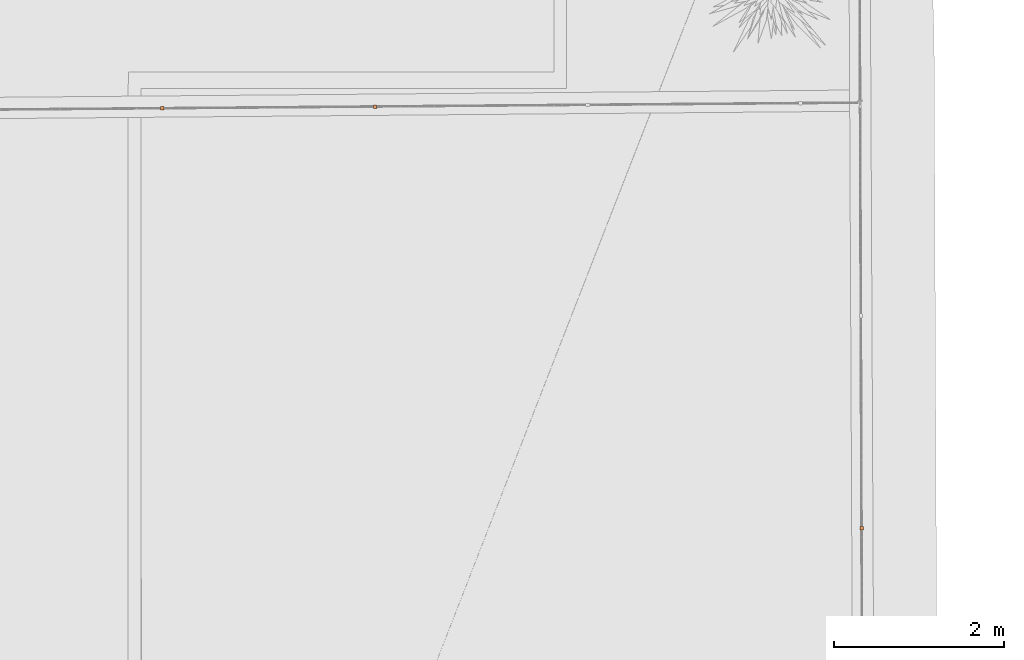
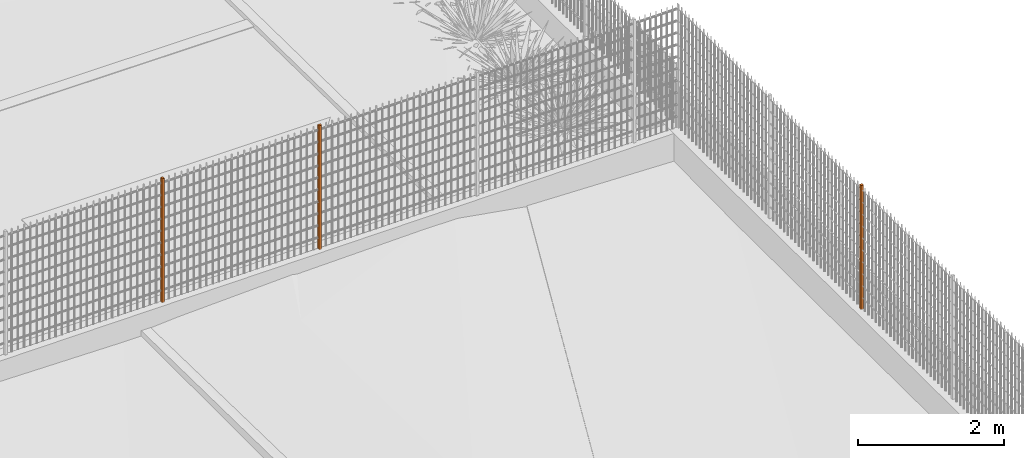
# One storey, part 15 of 1809: 3 proxies, 1 element without a shape of its own.
"""IFC2X3 building model written with IfcOpenShell, lengths in millimetres."""

from ifc_helpers import new_model, entity, si_unit, converted_unit, derived_unit, money_unit, direction, frame, origin_with_axes, place, context, subcontext, project, spatial, faceted_brep, source, transform, mapped, material, type_object, element, aggregate, save


model = new_model("IFC2X3")

# Units and contexts
model_context = context("Model", 3, precision=0.01, world=origin_with_axes(), true_north=direction((0.0, 1.0)))
body_context = subcontext(model_context, "Body", "Model", "MODEL_VIEW")
ifc_project = project(units=[si_unit("LENGTHUNIT", "METRE", prefix="MILLI"), si_unit("AREAUNIT", "SQUARE_METRE"), si_unit("VOLUMEUNIT", "CUBIC_METRE"), converted_unit("PLANEANGLEUNIT", "DEGREE", entity("IfcPlaneAngleMeasure", 0.0174532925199), si_unit("PLANEANGLEUNIT", "RADIAN"), dimensions=[0, 0, 0, 0, 0, 0, 0]), si_unit("SOLIDANGLEUNIT", "STERADIAN"), money_unit("EUR"), converted_unit("TIMEUNIT", "Year", entity("IfcTimeMeasure", 31556926.0), si_unit("TIMEUNIT", "SECOND"), dimensions=[0, 0, 1, 0, 0, 0, 0]), si_unit("MASSUNIT", "GRAM", prefix="KILO"), si_unit("THERMODYNAMICTEMPERATUREUNIT", "DEGREE_CELSIUS"), si_unit("LUMINOUSINTENSITYUNIT", "LUMEN"), si_unit("ENERGYUNIT", "JOULE", prefix="MEGA"), derived_unit("THERMALCONDUCTANCEUNIT", [(si_unit("POWERUNIT", "WATT"), 1), (si_unit("LENGTHUNIT", "METRE"), -1), (si_unit("THERMODYNAMICTEMPERATUREUNIT", "KELVIN"), -1)]), derived_unit("SPECIFICHEATCAPACITYUNIT", [(si_unit("ENERGYUNIT", "JOULE"), 1), (si_unit("MASSUNIT", "GRAM", prefix="KILO"), -1), (si_unit("THERMODYNAMICTEMPERATUREUNIT", "KELVIN"), -1)]), derived_unit("MASSDENSITYUNIT", [(si_unit("MASSUNIT", "GRAM", prefix="KILO"), 1), (si_unit("VOLUMEUNIT", "CUBIC_METRE"), -1)])], contexts=[model_context])

# Site, building, storey
site_placement = place(None, origin_with_axes())
site = spatial("IfcSite", under=ifc_project, at=site_placement, Name="Politse- ja Piirivalveameti ning Päästeameti ühishoone", CompositionType="ELEMENT")
building_placement = place(site_placement, origin_with_axes())
building = spatial("IfcBuilding", under=site, at=building_placement, Name="Politse- ja Piirivalveameti ning Päästeameti ühishoone", CompositionType="ELEMENT")
storey_placement = place(building_placement, origin_with_axes())
storey = spatial("IfcBuildingStorey", under=building, at=storey_placement, Name="Esimene korrus", CompositionType="ELEMENT", Elevation=0.0)

# Proxies
building_element_proxy_type_1 = type_object("IfcBuildingElementProxyType", Name="Railing Type", PredefinedType="NOTDEFINED")
proxy_1_placement = place(storey_placement, frame((89104.1814532, -600.085881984, 164.131942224), z_axis=(0.0, 0.0, 1.0), x_axis=(1.0, 0.0, 0.0)))
proxy_1 = element("IfcBuildingElementProxy", 1, at=proxy_1_placement, inside=storey, type_object=building_element_proxy_type_1, Name="PIIRDEAED")
ifc_material = material(Name="ET-03_Raud")
building_element_proxy_type_2 = type_object("IfcBuildingElementProxyType", Name="IfcBuildingElementProxy", PredefinedType="NOTDEFINED")
shared_shape_1 = source(origin_with_axes(), body_context, "Body", "Brep", [
    faceted_brep([(20.0, 20.0, 0.0), (-20.0, 20.0, 0.0), (-20.0, 20.0, 2080.0), (20.0, 20.0, 2080.0), (20.0, -20.0, 0.0), (-20.0, -20.0, 0.0), (-20.0, -20.0, 2080.0), (20.0, -20.0, 2080.0)], [[[0, 1, 2, 3]], [[0, 4, 5, 1]], [[1, 5, 6, 2]], [[3, 2, 6, 7]], [[4, 0, 3, 7]], [[5, 4, 7, 6]]]),
])
proxy_2_placement = place(proxy_1_placement, frame((-8087.88862121, 299.003705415, 0.0), z_axis=(0.0, 0.0, 1.0), x_axis=(1.0, 0.0, 0.0)))
proxy_2 = element("IfcBuildingElementProxy", 2, at=proxy_2_placement, type_object=building_element_proxy_type_2, material=ifc_material, Name="SISEPOST - 001", context=body_context, shape_type="MappedRepresentation", body=[
    mapped(shared_shape_1, transform((0.0, 0.0, 0.0), x_axis=(0.00803874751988, -0.999967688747, 0.0), y_axis=(0.999967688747, 0.00803874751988, 0.0), z_axis=(0.0, 0.0, 1.0))),
])
proxy_3_placement = place(proxy_1_placement, frame((-5587.96939934, 319.100574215, 0.0), z_axis=(0.0, 0.0, 1.0), x_axis=(1.0, 0.0, 0.0)))
proxy_3 = element("IfcBuildingElementProxy", 3, at=proxy_3_placement, type_object=building_element_proxy_type_2, material=ifc_material, Name="SISEPOST - 001", context=body_context, shape_type="MappedRepresentation", body=[
    mapped(shared_shape_1, transform((0.0, 0.0, 0.0), x_axis=(0.00803874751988, -0.999967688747, 0.0), y_axis=(0.999967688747, 0.00803874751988, 0.0), z_axis=(0.0, 0.0, 1.0))),
])
shared_shape_2 = source(origin_with_axes(), body_context, "Body", "Brep", [
    faceted_brep([(20.0, 20.0, 0.0), (-20.0, 20.0, 0.0), (-20.0, 20.0, 2080.0), (20.0, 20.0, 2080.0), (20.0, -20.0, 0.0), (-20.0, -20.0, 0.0), (-20.0, -20.0, 2080.0), (20.0, -20.0, 2080.0)], [[[0, 1, 2, 3]], [[0, 4, 5, 1]], [[1, 5, 6, 2]], [[3, 2, 6, 7]], [[4, 0, 3, 7]], [[5, 4, 7, 6]]]),
])
proxy_4_placement = place(proxy_1_placement, frame((130.826366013, -4635.0320874, 0.0), z_axis=(0.0, 0.0, 1.0), x_axis=(1.0, 0.0, 0.0)))
proxy_4 = element("IfcBuildingElementProxy", 4, at=proxy_4_placement, type_object=building_element_proxy_type_2, material=ifc_material, Name="SISEPOST - 001", context=body_context, shape_type="MappedRepresentation", body=[
    mapped(shared_shape_2, transform((0.0, 0.0, 0.0), x_axis=(-0.999994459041, -0.00332894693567, 0.0), y_axis=(0.00332894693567, -0.999994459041, 0.0), z_axis=(0.0, 0.0, 1.0))),
])
aggregate(proxy_1, [proxy_2, proxy_3, proxy_4])

save(model, "model.ifc")
